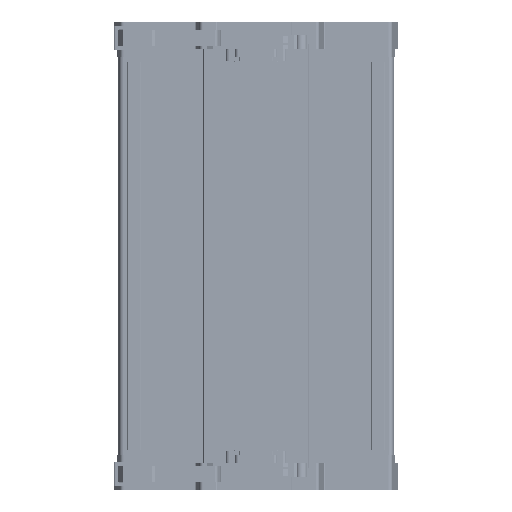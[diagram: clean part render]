
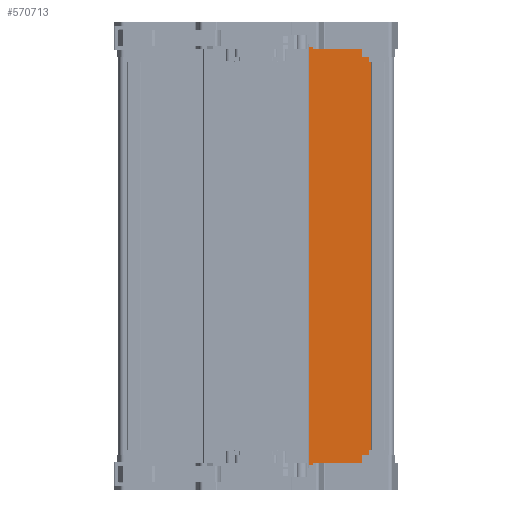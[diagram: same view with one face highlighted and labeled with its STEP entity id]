
A CAD part, front view. The second image highlights one B-rep face of the part: STEP entity #570713.
In plain terms, the highlighted planar face has unit normal (0, -1, 0).
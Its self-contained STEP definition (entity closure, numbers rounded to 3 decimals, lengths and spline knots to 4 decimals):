
#28251=LINE('',#867211,#83394);
#28300=LINE('',#867345,#83443);
#28301=LINE('',#867349,#83444);
#28302=LINE('',#867350,#83445);
#28303=LINE('',#867352,#83446);
#28304=LINE('',#867354,#83447);
#28305=LINE('',#867356,#83448);
#28306=LINE('',#867358,#83449);
#28307=LINE('',#867359,#83450);
#28308=LINE('',#867360,#83451);
#83394=VECTOR('',#685240,0.0394);
#83443=VECTOR('',#685335,0.0394);
#83444=VECTOR('',#685338,0.0394);
#83445=VECTOR('',#685339,0.0394);
#83446=VECTOR('',#685340,0.0394);
#83447=VECTOR('',#685341,0.0394);
#83448=VECTOR('',#685342,0.3937);
#83449=VECTOR('',#685343,0.0394);
#83450=VECTOR('',#685344,0.0394);
#83451=VECTOR('',#685345,0.3937);
#132984=PLANE('',#607337);
#155158=FACE_OUTER_BOUND('',#186733,.T.);
#186733=EDGE_LOOP('',(#405495,#405496,#405497,#405498,#405499,#405500,#405501,
#405502,#405503,#405504));
#246567=VERTEX_POINT('',#867207);
#246569=VERTEX_POINT('',#867210);
#246628=VERTEX_POINT('',#867338);
#246631=VERTEX_POINT('',#867343);
#246632=VERTEX_POINT('',#867347);
#246633=VERTEX_POINT('',#867348);
#246634=VERTEX_POINT('',#867351);
#246635=VERTEX_POINT('',#867353);
#246636=VERTEX_POINT('',#867355);
#246637=VERTEX_POINT('',#867357);
#306019=EDGE_CURVE('',#246569,#246567,#28251,.T.);
#306083=EDGE_CURVE('',#246631,#246628,#28300,.T.);
#306084=EDGE_CURVE('',#246632,#246633,#28301,.T.);
#306085=EDGE_CURVE('',#246632,#246628,#28302,.T.);
#306086=EDGE_CURVE('',#246634,#246631,#28303,.T.);
#306087=EDGE_CURVE('',#246634,#246635,#28304,.T.);
#306088=EDGE_CURVE('',#246636,#246635,#28305,.T.);
#306089=EDGE_CURVE('',#246636,#246637,#28306,.T.);
#306090=EDGE_CURVE('',#246637,#246569,#28307,.T.);
#306091=EDGE_CURVE('',#246633,#246567,#28308,.T.);
#405495=ORIENTED_EDGE('',*,*,#306084,.F.);
#405496=ORIENTED_EDGE('',*,*,#306085,.T.);
#405497=ORIENTED_EDGE('',*,*,#306083,.F.);
#405498=ORIENTED_EDGE('',*,*,#306086,.F.);
#405499=ORIENTED_EDGE('',*,*,#306087,.T.);
#405500=ORIENTED_EDGE('',*,*,#306088,.F.);
#405501=ORIENTED_EDGE('',*,*,#306089,.T.);
#405502=ORIENTED_EDGE('',*,*,#306090,.T.);
#405503=ORIENTED_EDGE('',*,*,#306019,.T.);
#405504=ORIENTED_EDGE('',*,*,#306091,.F.);
#570713=ADVANCED_FACE('',(#155158),#132984,.F.);
#607337=AXIS2_PLACEMENT_3D('',#867346,#685336,#685337);
#685240=DIRECTION('',(1.,0.,0.));
#685335=DIRECTION('',(0.,0.,-1.));
#685336=DIRECTION('center_axis',(0.,1.,0.));
#685337=DIRECTION('ref_axis',(1.,0.,0.));
#685338=DIRECTION('',(0.,0.,-1.));
#685339=DIRECTION('',(1.,0.,0.));
#685340=DIRECTION('',(1.,0.,0.));
#685341=DIRECTION('',(0.,0.,1.));
#685342=DIRECTION('',(1.,0.,0.));
#685343=DIRECTION('',(-1.,0.,0.));
#685344=DIRECTION('',(0.,0.,-1.));
#685345=DIRECTION('',(-1.,0.,0.));
#867207=CARTESIAN_POINT('',(1.0394,-0.657,-3.7402));
#867210=CARTESIAN_POINT('',(0.935,-0.657,-3.7402));
#867211=CARTESIAN_POINT('',(-0.9783,-0.657,-3.7402));
#867338=CARTESIAN_POINT('',(2.1142,-0.657,-3.5236));
#867343=CARTESIAN_POINT('',(2.1142,-0.657,3.5236));
#867345=CARTESIAN_POINT('',(2.1142,-0.657,3.7402));
#867346=CARTESIAN_POINT('Origin',(1.1038,-0.657,0.5058));
#867347=CARTESIAN_POINT('',(1.9508,-0.657,-3.5236));
#867348=CARTESIAN_POINT('',(1.9508,-0.657,-3.7402));
#867349=CARTESIAN_POINT('',(1.9508,-0.657,-4.1339));
#867350=CARTESIAN_POINT('',(-0.2854,-0.657,-3.5236));
#867351=CARTESIAN_POINT('',(1.9508,-0.657,3.5236));
#867352=CARTESIAN_POINT('',(-0.2854,-0.657,3.5236));
#867353=CARTESIAN_POINT('',(1.9508,-0.657,3.7402));
#867354=CARTESIAN_POINT('',(1.9508,-0.657,4.1339));
#867355=CARTESIAN_POINT('',(1.0394,-0.657,3.7402));
#867356=CARTESIAN_POINT('',(0.9308,-0.657,3.7402));
#867357=CARTESIAN_POINT('',(0.935,-0.657,3.7402));
#867358=CARTESIAN_POINT('',(0.6928,-0.657,3.7402));
#867359=CARTESIAN_POINT('',(0.935,-0.657,4.0394));
#867360=CARTESIAN_POINT('',(0.9399,-0.657,-3.7402));
